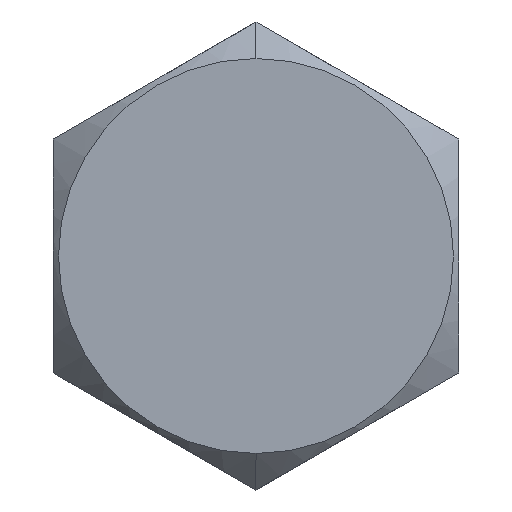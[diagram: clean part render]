
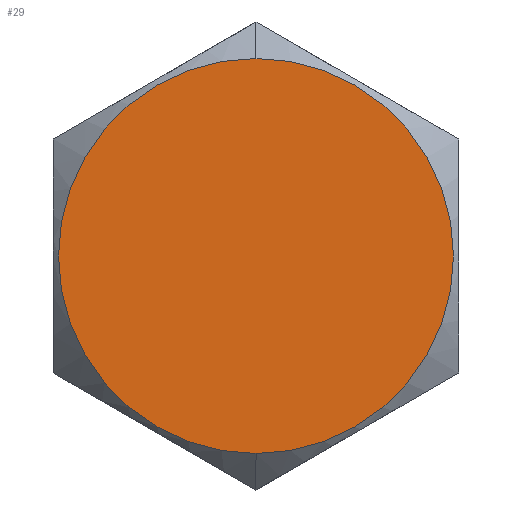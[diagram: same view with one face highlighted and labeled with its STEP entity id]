
A CAD part, left-side view. The second image highlights one B-rep face of the part: STEP entity #29.
In plain terms, the highlighted planar face has unit normal (-1, 0, 0).
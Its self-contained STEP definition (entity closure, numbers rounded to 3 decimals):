
#24 = EDGE_CURVE ( 'NONE', #223, #516, #533, .T. ) ;
#29 = ADVANCED_FACE ( 'NONE', ( #595 ), #665, .F. ) ;
#83 = CARTESIAN_POINT ( 'NONE',  ( 0., 0., 0. ) ) ;
#118 = ORIENTED_EDGE ( 'NONE', *, *, #24, .F. ) ;
#150 = CARTESIAN_POINT ( 'NONE',  ( 0., 0., 0. ) ) ;
#223 = VERTEX_POINT ( 'NONE', #239 ) ;
#239 = CARTESIAN_POINT ( 'NONE',  ( 0., 0., 4.874 ) ) ;
#280 = EDGE_CURVE ( 'NONE', #516, #223, #545, .T. ) ;
#282 = EDGE_LOOP ( 'NONE', ( #531, #118 ) ) ;
#337 = AXIS2_PLACEMENT_3D ( 'NONE', #653, #353, #351 ) ;
#351 = DIRECTION ( 'NONE',  ( 0., 0., -1. ) ) ;
#353 = DIRECTION ( 'NONE',  ( 1., 0., 0. ) ) ;
#418 = DIRECTION ( 'NONE',  ( 0., 0., -1. ) ) ;
#453 = DIRECTION ( 'NONE',  ( 0., 0., -1. ) ) ;
#483 = DIRECTION ( 'NONE',  ( 1., 0., 0. ) ) ;
#516 = VERTEX_POINT ( 'NONE', #652 ) ;
#531 = ORIENTED_EDGE ( 'NONE', *, *, #280, .F. ) ;
#533 = CIRCLE ( 'NONE', #337, 4.874 ) ;
#545 = CIRCLE ( 'NONE', #610, 4.874 ) ;
#577 = DIRECTION ( 'NONE',  ( 1., 0., 0. ) ) ;
#595 = FACE_OUTER_BOUND ( 'NONE', #282, .T. ) ;
#610 = AXIS2_PLACEMENT_3D ( 'NONE', #83, #577, #453 ) ;
#652 = CARTESIAN_POINT ( 'NONE',  ( 0., 0., -4.874 ) ) ;
#653 = CARTESIAN_POINT ( 'NONE',  ( 0., 0., 0. ) ) ;
#665 = PLANE ( 'NONE',  #742 ) ;
#742 = AXIS2_PLACEMENT_3D ( 'NONE', #150, #483, #418 ) ;
